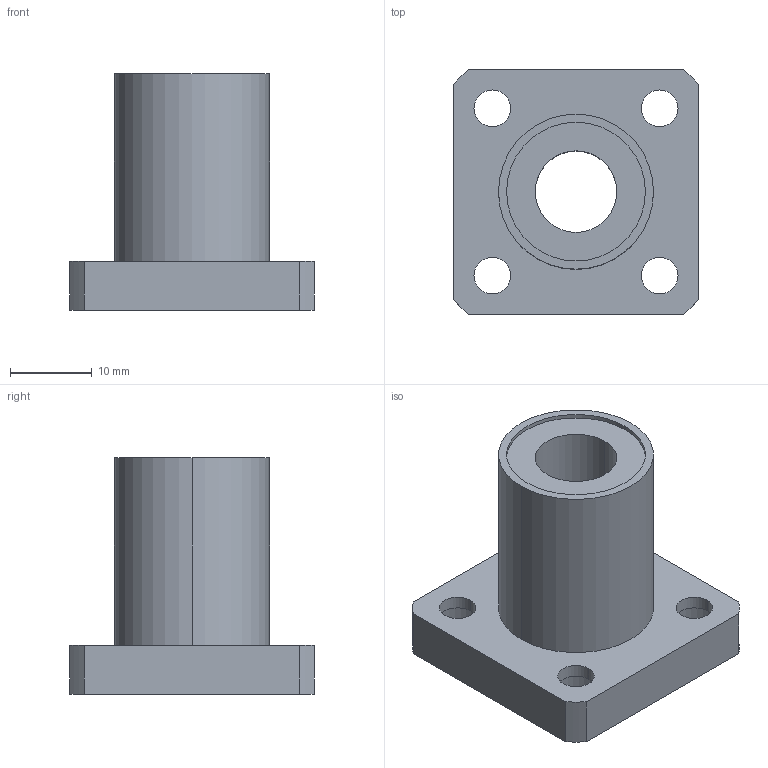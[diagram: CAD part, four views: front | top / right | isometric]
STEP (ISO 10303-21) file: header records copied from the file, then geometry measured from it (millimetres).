
FILE_DESCRIPTION((''),'2;1');
FILE_NAME('C:\Documents and Settings\ｿﾀﾀ蠑ｷ1\ｹﾙﾅﾁ ﾈｭｸ饅\ｺﾎﾇｰﾆﾄﾀﾏ\ﾁｦﾇｰ\LMK__UU\LMK10UU.stp','2005-06-15T09:47:00',('ｿﾀﾀ蠑ｷ1'),(''),'Autodesk Inventor 9','Autodesk Inventor 9','');
FILE_SCHEMA(('AUTOMOTIVE_DESIGN { 1 0 10303 214 1 1 1 1 }'));
Length unit declared in the file: millimetre
Products named in the file (1): LMK__
Bounding box: 30 x 30 x 29 mm (x, y, z)
Volume: 8370 mm3; surface area: 5051.7 mm2
Topology: 1 solids, 1 shells, 44 faces, 102 edges, 68 vertices
Faces by surface type: cylinder 30, plane 14
Entity records: 1329 total; most frequent: DIRECTION 252, CARTESIAN_POINT 215, ORIENTED_EDGE 204, AXIS2_PLACEMENT_3D 105, EDGE_CURVE 102, VERTEX_POINT 68, EDGE_LOOP 62, CIRCLE 60
